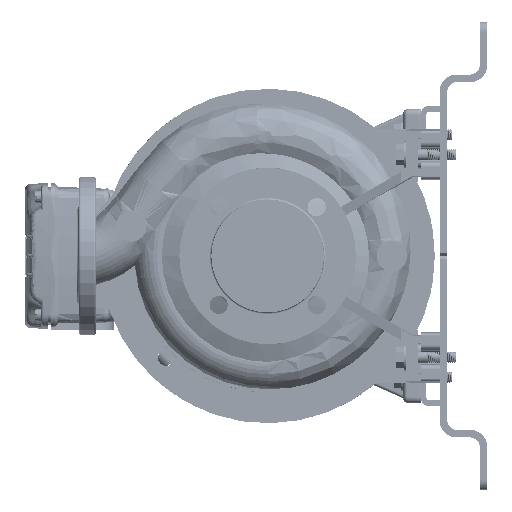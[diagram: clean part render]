
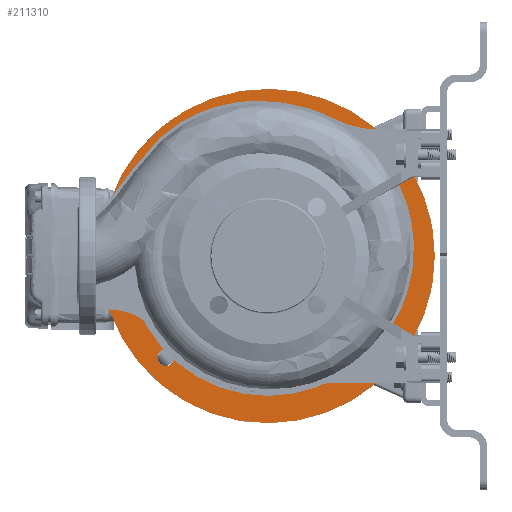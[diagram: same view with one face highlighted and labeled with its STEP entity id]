
A CAD part, left-side view. The second image highlights one B-rep face of the part: STEP entity #211310.
In plain terms, the highlighted planar face has unit normal (-1, 0, 0).
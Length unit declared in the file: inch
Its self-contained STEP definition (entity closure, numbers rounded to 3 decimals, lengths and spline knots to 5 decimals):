
#2648 = DIRECTION ( 'NONE',  ( 1., 0., 0. ) ) ;
#8023 = EDGE_LOOP ( 'NONE', ( #73982, #91590 ) ) ;
#9469 = AXIS2_PLACEMENT_3D ( 'NONE', #21181, #72203, #162517 ) ;
#10572 = CARTESIAN_POINT ( 'NONE',  ( 18.19018, 12.78172, 46.58756 ) ) ;
#12918 = EDGE_LOOP ( 'NONE', ( #66871, #165025 ) ) ;
#16525 = DIRECTION ( 'NONE',  ( 1., 0., 0. ) ) ;
#17440 = DIRECTION ( 'NONE',  ( 0., 0., -1. ) ) ;
#20989 = EDGE_LOOP ( 'NONE', ( #32339, #41111 ) ) ;
#21181 = CARTESIAN_POINT ( 'NONE',  ( 18.19018, 21.13094, 38.23406 ) ) ;
#22067 = EDGE_LOOP ( 'NONE', ( #173865, #228043 ) ) ;
#24674 = PLANE ( 'NONE',  #216130 ) ;
#25324 = EDGE_CURVE ( 'NONE', #110809, #124399, #173182, .T. ) ;
#25867 = EDGE_LOOP ( 'NONE', ( #213785, #110141, #220607, #194756 ) ) ;
#26926 = CIRCLE ( 'NONE', #82477, 0.35433 ) ;
#27380 = ORIENTED_EDGE ( 'NONE', *, *, #86148, .F. ) ;
#32339 = ORIENTED_EDGE ( 'NONE', *, *, #57358, .T. ) ;
#32941 = CARTESIAN_POINT ( 'NONE',  ( 18.19018, 16.95633, 42.41081 ) ) ;
#33070 = CIRCLE ( 'NONE', #140372, 5.02675 ) ;
#33190 = VERTEX_POINT ( 'NONE', #99707 ) ;
#33560 = EDGE_CURVE ( 'NONE', #62114, #37017, #45110, .T. ) ;
#35982 = AXIS2_PLACEMENT_3D ( 'NONE', #71662, #178222, #124924 ) ;
#36232 = EDGE_LOOP ( 'NONE', ( #150959, #27380 ) ) ;
#37017 = VERTEX_POINT ( 'NONE', #40878 ) ;
#39160 = CARTESIAN_POINT ( 'NONE',  ( 18.19018, 12.78172, 46.9419 ) ) ;
#40878 = CARTESIAN_POINT ( 'NONE',  ( 18.19018, 16.95633, 49.30058 ) ) ;
#41111 = ORIENTED_EDGE ( 'NONE', *, *, #196799, .T. ) ;
#41745 = CARTESIAN_POINT ( 'NONE',  ( 18.19018, 11.97246, 41.75563 ) ) ;
#45110 = CIRCLE ( 'NONE', #145442, 6.88976 ) ;
#45854 = DIRECTION ( 'NONE',  ( 0., 0., 1. ) ) ;
#49851 = DIRECTION ( 'NONE',  ( 0., 0., -1. ) ) ;
#52247 = CARTESIAN_POINT ( 'NONE',  ( 18.19018, 21.13094, 46.23323 ) ) ;
#54321 = AXIS2_PLACEMENT_3D ( 'NONE', #211587, #138577, #55071 ) ;
#55071 = DIRECTION ( 'NONE',  ( 0., 0., 1. ) ) ;
#56140 = EDGE_CURVE ( 'NONE', #204522, #140256, #146935, .T. ) ;
#56191 = CARTESIAN_POINT ( 'NONE',  ( 18.19018, 16.95633, 35.52105 ) ) ;
#57358 = EDGE_CURVE ( 'NONE', #114115, #202179, #165515, .T. ) ;
#58351 = VERTEX_POINT ( 'NONE', #153051 ) ;
#60559 = DIRECTION ( 'NONE',  ( -1., 0., 0. ) ) ;
#62114 = VERTEX_POINT ( 'NONE', #56191 ) ;
#62513 = EDGE_CURVE ( 'NONE', #124399, #58351, #96113, .T. ) ;
#62575 = EDGE_CURVE ( 'NONE', #140256, #204522, #148073, .T. ) ;
#62812 = CARTESIAN_POINT ( 'NONE',  ( 18.19018, 16.95633, 42.41081 ) ) ;
#63993 = FACE_BOUND ( 'NONE', #12918, .T. ) ;
#65253 = CARTESIAN_POINT ( 'NONE',  ( 18.19018, 21.13094, 46.58756 ) ) ;
#65333 = CIRCLE ( 'NONE', #209734, 0.35433 ) ;
#66871 = ORIENTED_EDGE ( 'NONE', *, *, #62575, .T. ) ;
#66929 = DIRECTION ( 'NONE',  ( 0., 0., -1. ) ) ;
#71326 = CARTESIAN_POINT ( 'NONE',  ( 18.19018, 12.78172, 38.5884 ) ) ;
#71662 = CARTESIAN_POINT ( 'NONE',  ( 18.19018, 21.13094, 46.58756 ) ) ;
#72203 = DIRECTION ( 'NONE',  ( -1., 0., 0. ) ) ;
#73982 = ORIENTED_EDGE ( 'NONE', *, *, #128010, .F. ) ;
#76414 = AXIS2_PLACEMENT_3D ( 'NONE', #65253, #16525, #117377 ) ;
#81322 = DIRECTION ( 'NONE',  ( 0., 0., -1. ) ) ;
#81372 = FACE_OUTER_BOUND ( 'NONE', #36232, .T. ) ;
#82477 = AXIS2_PLACEMENT_3D ( 'NONE', #146002, #164579, #93854 ) ;
#86148 = EDGE_CURVE ( 'NONE', #37017, #62114, #181388, .T. ) ;
#86217 = DIRECTION ( 'NONE',  ( 1., 0., 0. ) ) ;
#87926 = CIRCLE ( 'NONE', #187878, 0.35433 ) ;
#88135 = EDGE_CURVE ( 'NONE', #227530, #110809, #219001, .T. ) ;
#91590 = ORIENTED_EDGE ( 'NONE', *, *, #150071, .F. ) ;
#93854 = DIRECTION ( 'NONE',  ( 0., 0., 1. ) ) ;
#94527 = DIRECTION ( 'NONE',  ( 1., 0., 0. ) ) ;
#95284 = CARTESIAN_POINT ( 'NONE',  ( 18.19018, 23.8461, 42.41081 ) ) ;
#95434 = VERTEX_POINT ( 'NONE', #39160 ) ;
#96113 = CIRCLE ( 'NONE', #133234, 5.02675 ) ;
#96432 = FACE_BOUND ( 'NONE', #20989, .T. ) ;
#97562 = FACE_BOUND ( 'NONE', #25867, .T. ) ;
#99707 = CARTESIAN_POINT ( 'NONE',  ( 18.19018, 21.13094, 38.5884 ) ) ;
#99905 = CARTESIAN_POINT ( 'NONE',  ( 18.19018, 21.13094, 37.87973 ) ) ;
#107547 = CARTESIAN_POINT ( 'NONE',  ( 18.19018, 16.95633, 37.38406 ) ) ;
#110141 = ORIENTED_EDGE ( 'NONE', *, *, #25324, .T. ) ;
#110809 = VERTEX_POINT ( 'NONE', #41745 ) ;
#114115 = VERTEX_POINT ( 'NONE', #52247 ) ;
#116683 = CARTESIAN_POINT ( 'NONE',  ( 18.19018, 21.13094, 46.9419 ) ) ;
#117377 = DIRECTION ( 'NONE',  ( 0., 0., -1. ) ) ;
#124399 = VERTEX_POINT ( 'NONE', #107547 ) ;
#124924 = DIRECTION ( 'NONE',  ( 0., 0., -1. ) ) ;
#125574 = VERTEX_POINT ( 'NONE', #99905 ) ;
#128010 = EDGE_CURVE ( 'NONE', #33190, #125574, #26926, .T. ) ;
#132706 = VERTEX_POINT ( 'NONE', #175230 ) ;
#133205 = CARTESIAN_POINT ( 'NONE',  ( 18.19018, 12.78172, 38.23406 ) ) ;
#133234 = AXIS2_PLACEMENT_3D ( 'NONE', #165669, #2648, #143956 ) ;
#133945 = CARTESIAN_POINT ( 'NONE',  ( 18.19018, 12.6257, 42.41081 ) ) ;
#134349 = DIRECTION ( 'NONE',  ( 0., 0., 1. ) ) ;
#138577 = DIRECTION ( 'NONE',  ( 1., 0., 0. ) ) ;
#138714 = CARTESIAN_POINT ( 'NONE',  ( 18.19018, 12.78172, 46.58756 ) ) ;
#140256 = VERTEX_POINT ( 'NONE', #71326 ) ;
#140372 = AXIS2_PLACEMENT_3D ( 'NONE', #62812, #148549, #81322 ) ;
#143956 = DIRECTION ( 'NONE',  ( 0., 0., -1. ) ) ;
#145442 = AXIS2_PLACEMENT_3D ( 'NONE', #32941, #86217, #225355 ) ;
#146002 = CARTESIAN_POINT ( 'NONE',  ( 18.19018, 21.13094, 38.23406 ) ) ;
#146604 = CARTESIAN_POINT ( 'NONE',  ( 18.19018, 16.95633, 42.41081 ) ) ;
#146669 = CIRCLE ( 'NONE', #76414, 0.35433 ) ;
#146935 = CIRCLE ( 'NONE', #54321, 0.35433 ) ;
#148073 = CIRCLE ( 'NONE', #225737, 0.35433 ) ;
#148549 = DIRECTION ( 'NONE',  ( 1., 0., 0. ) ) ;
#150071 = EDGE_CURVE ( 'NONE', #125574, #33190, #187071, .T. ) ;
#150959 = ORIENTED_EDGE ( 'NONE', *, *, #33560, .F. ) ;
#151893 = DIRECTION ( 'NONE',  ( -1., 0., 0. ) ) ;
#153051 = CARTESIAN_POINT ( 'NONE',  ( 18.19018, 16.95633, 47.43757 ) ) ;
#153599 = EDGE_CURVE ( 'NONE', #132706, #95434, #87926, .T. ) ;
#157631 = CARTESIAN_POINT ( 'NONE',  ( 18.19018, 16.95633, 42.41081 ) ) ;
#162517 = DIRECTION ( 'NONE',  ( 0., 0., 1. ) ) ;
#164030 = DIRECTION ( 'NONE',  ( 1., 0., 0. ) ) ;
#164579 = DIRECTION ( 'NONE',  ( -1., 0., 0. ) ) ;
#165025 = ORIENTED_EDGE ( 'NONE', *, *, #56140, .T. ) ;
#165180 = DIRECTION ( 'NONE',  ( 0., 0., -1. ) ) ;
#165515 = CIRCLE ( 'NONE', #35982, 0.35433 ) ;
#165669 = CARTESIAN_POINT ( 'NONE',  ( 18.19018, 16.95633, 42.41081 ) ) ;
#166033 = DIRECTION ( 'NONE',  ( 0., 0., 1. ) ) ;
#166728 = AXIS2_PLACEMENT_3D ( 'NONE', #146604, #164030, #165180 ) ;
#173182 = CIRCLE ( 'NONE', #199198, 5.02675 ) ;
#173865 = ORIENTED_EDGE ( 'NONE', *, *, #153599, .F. ) ;
#175230 = CARTESIAN_POINT ( 'NONE',  ( 18.19018, 12.78172, 46.23323 ) ) ;
#176378 = CARTESIAN_POINT ( 'NONE',  ( 18.19018, 12.78172, 37.87973 ) ) ;
#178222 = DIRECTION ( 'NONE',  ( 1., 0., 0. ) ) ;
#179880 = DIRECTION ( 'NONE',  ( 1., 0., 0. ) ) ;
#181388 = CIRCLE ( 'NONE', #166728, 6.88976 ) ;
#182977 = EDGE_CURVE ( 'NONE', #58351, #227530, #33070, .T. ) ;
#185721 = AXIS2_PLACEMENT_3D ( 'NONE', #133945, #94527, #45854 ) ;
#187071 = CIRCLE ( 'NONE', #9469, 0.35433 ) ;
#187878 = AXIS2_PLACEMENT_3D ( 'NONE', #138714, #209447, #66929 ) ;
#192136 = CARTESIAN_POINT ( 'NONE',  ( 18.19018, 11.97246, 43.066 ) ) ;
#194756 = ORIENTED_EDGE ( 'NONE', *, *, #182977, .T. ) ;
#196799 = EDGE_CURVE ( 'NONE', #202179, #114115, #146669, .T. ) ;
#197133 = EDGE_CURVE ( 'NONE', #95434, #132706, #65333, .T. ) ;
#199198 = AXIS2_PLACEMENT_3D ( 'NONE', #157631, #228357, #17440 ) ;
#202179 = VERTEX_POINT ( 'NONE', #116683 ) ;
#203108 = FACE_BOUND ( 'NONE', #22067, .T. ) ;
#204522 = VERTEX_POINT ( 'NONE', #176378 ) ;
#209447 = DIRECTION ( 'NONE',  ( -1., 0., 0. ) ) ;
#209734 = AXIS2_PLACEMENT_3D ( 'NONE', #10572, #151893, #49851 ) ;
#211310 = ADVANCED_FACE ( 'NONE', ( #81372, #96432, #203108, #219351, #63993, #97562 ), #24674, .T. ) ;
#211587 = CARTESIAN_POINT ( 'NONE',  ( 18.19018, 12.78172, 38.23406 ) ) ;
#213785 = ORIENTED_EDGE ( 'NONE', *, *, #88135, .T. ) ;
#216130 = AXIS2_PLACEMENT_3D ( 'NONE', #95284, #60559, #166033 ) ;
#219001 = CIRCLE ( 'NONE', #185721, 0.9252 ) ;
#219351 = FACE_BOUND ( 'NONE', #8023, .T. ) ;
#220607 = ORIENTED_EDGE ( 'NONE', *, *, #62513, .T. ) ;
#225355 = DIRECTION ( 'NONE',  ( 0., 0., -1. ) ) ;
#225737 = AXIS2_PLACEMENT_3D ( 'NONE', #133205, #179880, #134349 ) ;
#227530 = VERTEX_POINT ( 'NONE', #192136 ) ;
#228043 = ORIENTED_EDGE ( 'NONE', *, *, #197133, .F. ) ;
#228357 = DIRECTION ( 'NONE',  ( 1., 0., 0. ) ) ;
